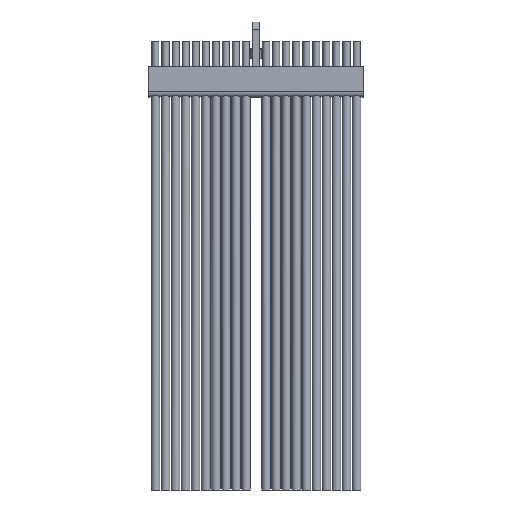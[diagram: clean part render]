
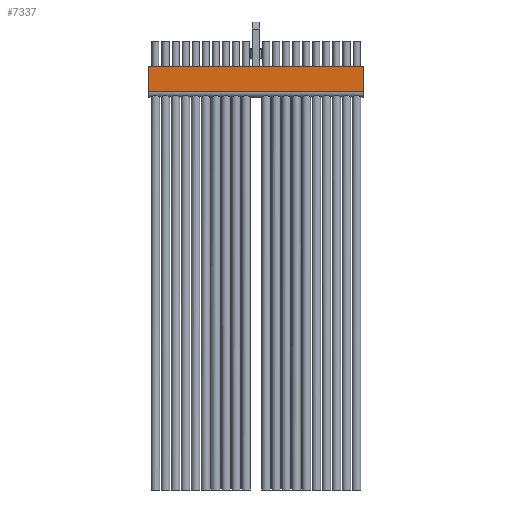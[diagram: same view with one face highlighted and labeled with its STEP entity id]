
A CAD part, front view. The second image highlights one B-rep face of the part: STEP entity #7337.
In plain terms, the highlighted planar face has unit normal (0, -1, 0).
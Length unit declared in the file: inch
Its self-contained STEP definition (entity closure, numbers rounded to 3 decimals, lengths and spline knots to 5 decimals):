
#606 = DIRECTION ( 'NONE',  ( 0., 0., -1. ) ) ;
#2017 = LINE ( 'NONE', #15220, #11209 ) ;
#2667 = DIRECTION ( 'NONE',  ( -1., 0., 0. ) ) ;
#3063 = DIRECTION ( 'NONE',  ( -1., 0., 0. ) ) ;
#3854 = CARTESIAN_POINT ( 'NONE',  ( -0.535, -0.0375, 0.0625 ) ) ;
#3868 = VERTEX_POINT ( 'NONE', #13966 ) ;
#4690 = EDGE_CURVE ( 'NONE', #16916, #3868, #19723, .T. ) ;
#5005 = CARTESIAN_POINT ( 'NONE',  ( 2.0125, -0.0375, 0.0625 ) ) ;
#6164 = CARTESIAN_POINT ( 'NONE',  ( -0.535, -0.0375, -0.0625 ) ) ;
#6219 = CARTESIAN_POINT ( 'NONE',  ( 0.535, -0.0375, 0.0625 ) ) ;
#6651 = EDGE_CURVE ( 'NONE', #16916, #15669, #2017, .T. ) ;
#7163 = ORIENTED_EDGE ( 'NONE', *, *, #4690, .F. ) ;
#7337 = ADVANCED_FACE ( 'NONE', ( #16095 ), #11942, .F. ) ;
#7959 = DIRECTION ( 'NONE',  ( 0., 0., -1. ) ) ;
#8490 = DIRECTION ( 'NONE',  ( 0., 1., 0. ) ) ;
#9982 = EDGE_CURVE ( 'NONE', #15669, #16440, #17050, .T. ) ;
#10189 = VECTOR ( 'NONE', #2667, 39.37008 ) ;
#10962 = CARTESIAN_POINT ( 'NONE',  ( -0.535, -0.0375, 0.0625 ) ) ;
#11209 = VECTOR ( 'NONE', #3063, 39.37008 ) ;
#11728 = EDGE_CURVE ( 'NONE', #3868, #16440, #18877, .T. ) ;
#11942 = PLANE ( 'NONE',  #18164 ) ;
#12062 = ORIENTED_EDGE ( 'NONE', *, *, #6651, .T. ) ;
#13065 = CARTESIAN_POINT ( 'NONE',  ( 2.0125, -0.0375, -0.0625 ) ) ;
#13966 = CARTESIAN_POINT ( 'NONE',  ( 0.535, -0.0375, -0.0625 ) ) ;
#14209 = ORIENTED_EDGE ( 'NONE', *, *, #11728, .F. ) ;
#15220 = CARTESIAN_POINT ( 'NONE',  ( 2.0125, -0.0375, 0.0625 ) ) ;
#15669 = VERTEX_POINT ( 'NONE', #3854 ) ;
#16095 = FACE_OUTER_BOUND ( 'NONE', #16857, .T. ) ;
#16440 = VERTEX_POINT ( 'NONE', #6164 ) ;
#16857 = EDGE_LOOP ( 'NONE', ( #7163, #12062, #19060, #14209 ) ) ;
#16916 = VERTEX_POINT ( 'NONE', #21783 ) ;
#17050 = LINE ( 'NONE', #10962, #22175 ) ;
#18164 = AXIS2_PLACEMENT_3D ( 'NONE', #5005, #8490, #20644 ) ;
#18877 = LINE ( 'NONE', #13065, #10189 ) ;
#19060 = ORIENTED_EDGE ( 'NONE', *, *, #9982, .T. ) ;
#19185 = VECTOR ( 'NONE', #7959, 39.37008 ) ;
#19723 = LINE ( 'NONE', #6219, #19185 ) ;
#20644 = DIRECTION ( 'NONE',  ( 0., 0., 1. ) ) ;
#21783 = CARTESIAN_POINT ( 'NONE',  ( 0.535, -0.0375, 0.0625 ) ) ;
#22175 = VECTOR ( 'NONE', #606, 39.37008 ) ;
